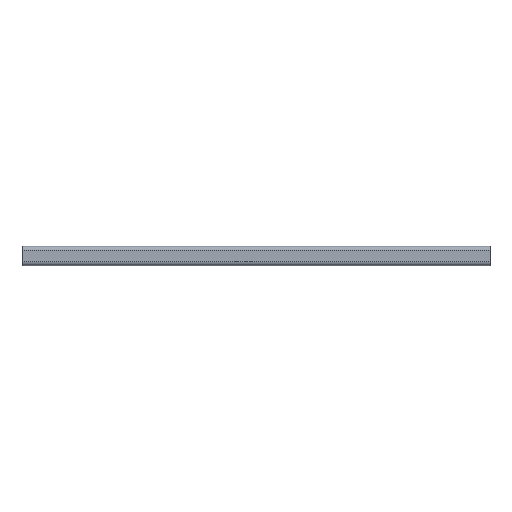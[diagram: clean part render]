
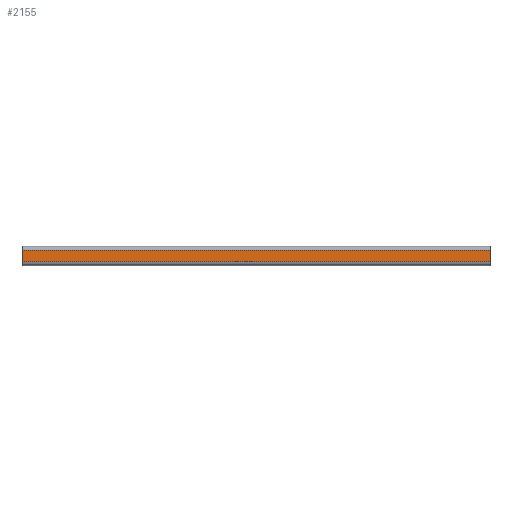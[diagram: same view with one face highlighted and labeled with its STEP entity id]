
A CAD part, front view. The second image highlights one B-rep face of the part: STEP entity #2155.
In plain terms, the highlighted planar face has unit normal (0, -1, 0).
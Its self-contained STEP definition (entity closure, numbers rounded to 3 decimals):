
#28 = CARTESIAN_POINT ( 'NONE',  ( -222.5, -19., 0. ) ) ;
#59 = CARTESIAN_POINT ( 'NONE',  ( 222.5, -19., -14.5 ) ) ;
#88 = LINE ( 'NONE', #59, #2386 ) ;
#125 = FACE_OUTER_BOUND ( 'NONE', #305, .T. ) ;
#161 = AXIS2_PLACEMENT_3D ( 'NONE', #824, #1615, #373 ) ;
#189 = ORIENTED_EDGE ( 'NONE', *, *, #2482, .F. ) ;
#305 = EDGE_LOOP ( 'NONE', ( #1483, #950, #189, #1769 ) ) ;
#373 = DIRECTION ( 'NONE',  ( 0., 0., 1. ) ) ;
#379 = VERTEX_POINT ( 'NONE', #1952 ) ;
#388 = VECTOR ( 'NONE', #1548, 1000. ) ;
#488 = LINE ( 'NONE', #1486, #1166 ) ;
#547 = VECTOR ( 'NONE', #575, 1000. ) ;
#575 = DIRECTION ( 'NONE',  ( -1., 0., 0. ) ) ;
#824 = CARTESIAN_POINT ( 'NONE',  ( 222.5, -19., 0. ) ) ;
#844 = VERTEX_POINT ( 'NONE', #1525 ) ;
#870 = DIRECTION ( 'NONE',  ( -1., 0., 0. ) ) ;
#950 = ORIENTED_EDGE ( 'NONE', *, *, #2600, .F. ) ;
#1020 = VERTEX_POINT ( 'NONE', #2713 ) ;
#1115 = EDGE_CURVE ( 'NONE', #844, #1804, #2810, .T. ) ;
#1158 = CARTESIAN_POINT ( 'NONE',  ( -222.5, -19., -14.5 ) ) ;
#1166 = VECTOR ( 'NONE', #2516, 1000. ) ;
#1483 = ORIENTED_EDGE ( 'NONE', *, *, #1115, .T. ) ;
#1486 = CARTESIAN_POINT ( 'NONE',  ( 222.5, -19., 0. ) ) ;
#1525 = CARTESIAN_POINT ( 'NONE',  ( -222.5, -19., -4. ) ) ;
#1548 = DIRECTION ( 'NONE',  ( 0., 0., -1. ) ) ;
#1615 = DIRECTION ( 'NONE',  ( 0., 1., 0. ) ) ;
#1672 = EDGE_CURVE ( 'NONE', #1020, #844, #1812, .T. ) ;
#1769 = ORIENTED_EDGE ( 'NONE', *, *, #1672, .T. ) ;
#1804 = VERTEX_POINT ( 'NONE', #1158 ) ;
#1812 = LINE ( 'NONE', #3099, #547 ) ;
#1952 = CARTESIAN_POINT ( 'NONE',  ( 222.5, -19., -14.5 ) ) ;
#2075 = PLANE ( 'NONE',  #161 ) ;
#2155 = ADVANCED_FACE ( 'NONE', ( #125 ), #2075, .F. ) ;
#2386 = VECTOR ( 'NONE', #870, 1000. ) ;
#2482 = EDGE_CURVE ( 'NONE', #1020, #379, #488, .T. ) ;
#2516 = DIRECTION ( 'NONE',  ( 0., 0., -1. ) ) ;
#2600 = EDGE_CURVE ( 'NONE', #379, #1804, #88, .T. ) ;
#2713 = CARTESIAN_POINT ( 'NONE',  ( 222.5, -19., -4. ) ) ;
#2810 = LINE ( 'NONE', #28, #388 ) ;
#3099 = CARTESIAN_POINT ( 'NONE',  ( 222.5, -19., -4. ) ) ;
